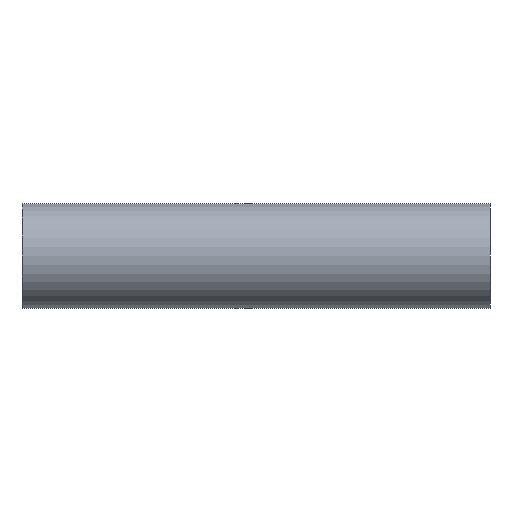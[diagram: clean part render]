
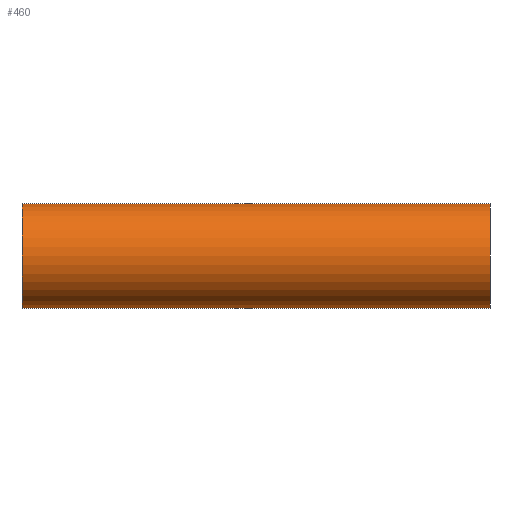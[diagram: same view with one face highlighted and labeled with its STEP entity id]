
A CAD part, front view. The second image highlights one B-rep face of the part: STEP entity #460.
In plain terms, the highlighted cylindrical face has radius 12.7 mm (diameter 25.4 mm), a partial arc.
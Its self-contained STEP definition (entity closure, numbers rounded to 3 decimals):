
#19 = EDGE_CURVE ( 'NONE', #116, #169, #266, .T. ) ;
#35 = AXIS2_PLACEMENT_3D ( 'NONE', #73, #419, #138 ) ;
#37 = CARTESIAN_POINT ( 'NONE',  ( 92.621, 0., -12.7 ) ) ;
#44 = ORIENTED_EDGE ( 'NONE', *, *, #19, .T. ) ;
#50 = CARTESIAN_POINT ( 'NONE',  ( -56.7, 0., -12.7 ) ) ;
#69 = EDGE_CURVE ( 'NONE', #169, #363, #277, .T. ) ;
#73 = CARTESIAN_POINT ( 'NONE',  ( 92.621, 0., 0. ) ) ;
#79 = CARTESIAN_POINT ( 'NONE',  ( -56.7, 0., 12.7 ) ) ;
#93 = AXIS2_PLACEMENT_3D ( 'NONE', #146, #175, #180 ) ;
#109 = ORIENTED_EDGE ( 'NONE', *, *, #69, .T. ) ;
#116 = VERTEX_POINT ( 'NONE', #404 ) ;
#120 = DIRECTION ( 'NONE',  ( 0., 0., 1. ) ) ;
#138 = DIRECTION ( 'NONE',  ( 0., 0., 1. ) ) ;
#144 = CARTESIAN_POINT ( 'NONE',  ( 56.7, 0., 12.7 ) ) ;
#146 = CARTESIAN_POINT ( 'NONE',  ( -56.7, 0., 0. ) ) ;
#147 = VERTEX_POINT ( 'NONE', #50 ) ;
#157 = EDGE_CURVE ( 'NONE', #363, #147, #311, .T. ) ;
#169 = VERTEX_POINT ( 'NONE', #144 ) ;
#175 = DIRECTION ( 'NONE',  ( 1., 0., 0. ) ) ;
#180 = DIRECTION ( 'NONE',  ( 0., 0., 1. ) ) ;
#188 = CARTESIAN_POINT ( 'NONE',  ( 92.621, 0., 12.7 ) ) ;
#224 = ORIENTED_EDGE ( 'NONE', *, *, #394, .F. ) ;
#229 = AXIS2_PLACEMENT_3D ( 'NONE', #498, #469, #120 ) ;
#266 = CIRCLE ( 'NONE', #229, 12.7 ) ;
#277 = LINE ( 'NONE', #188, #286 ) ;
#286 = VECTOR ( 'NONE', #443, 1000. ) ;
#311 = CIRCLE ( 'NONE', #93, 12.7 ) ;
#363 = VERTEX_POINT ( 'NONE', #79 ) ;
#373 = LINE ( 'NONE', #37, #390 ) ;
#377 = DIRECTION ( 'NONE',  ( -1., 0., 0. ) ) ;
#390 = VECTOR ( 'NONE', #377, 1000. ) ;
#394 = EDGE_CURVE ( 'NONE', #116, #147, #373, .T. ) ;
#404 = CARTESIAN_POINT ( 'NONE',  ( 56.7, 0., -12.7 ) ) ;
#410 = FACE_OUTER_BOUND ( 'NONE', #525, .T. ) ;
#419 = DIRECTION ( 'NONE',  ( -1., 0., 0. ) ) ;
#428 = CYLINDRICAL_SURFACE ( 'NONE', #35, 12.7 ) ;
#443 = DIRECTION ( 'NONE',  ( -1., 0., 0. ) ) ;
#460 = ADVANCED_FACE ( 'NONE', ( #410 ), #428, .T. ) ;
#469 = DIRECTION ( 'NONE',  ( -1., 0., 0. ) ) ;
#498 = CARTESIAN_POINT ( 'NONE',  ( 56.7, 0., 0. ) ) ;
#499 = ORIENTED_EDGE ( 'NONE', *, *, #157, .T. ) ;
#525 = EDGE_LOOP ( 'NONE', ( #224, #44, #109, #499 ) ) ;
